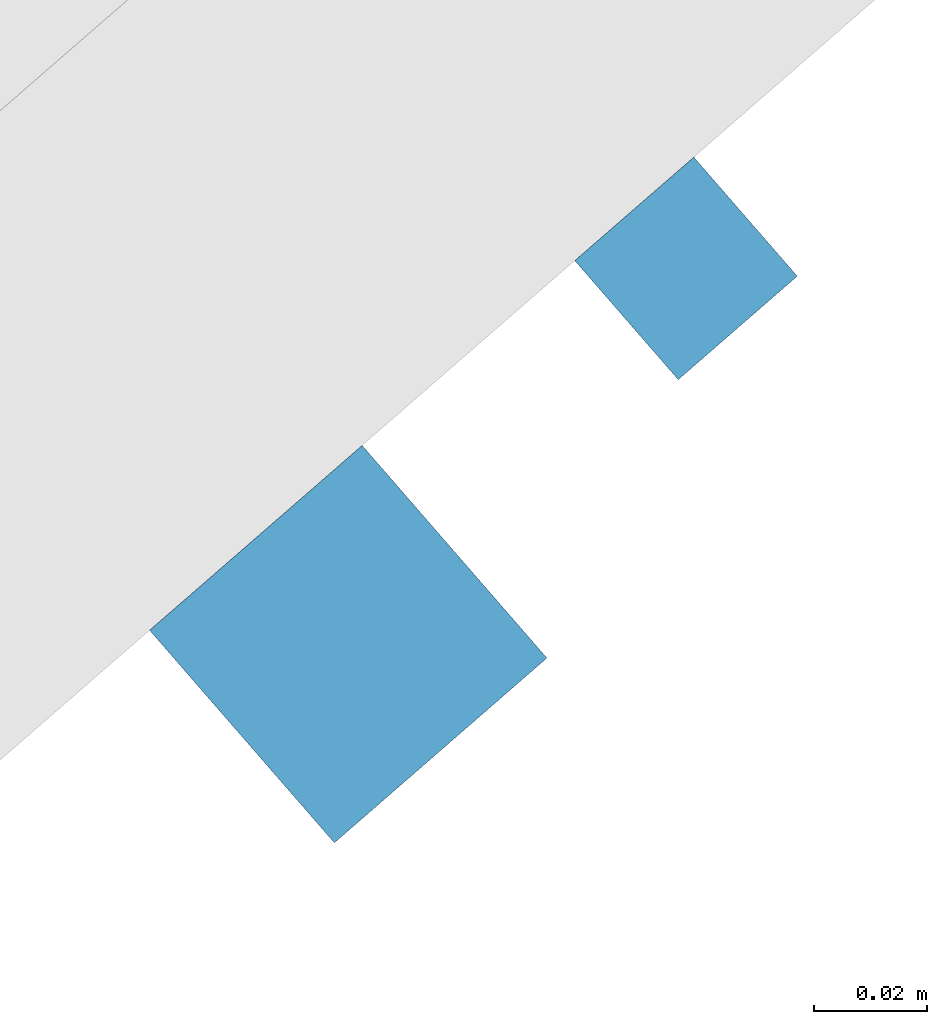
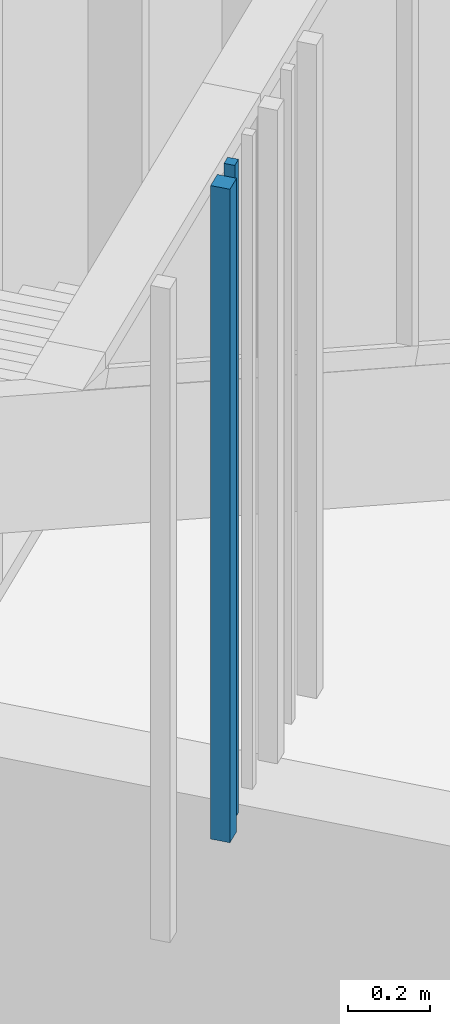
# One storey, part 32 of 124: 2 walls.
"""IFC2X3 building model written with IfcOpenShell, lengths in millimetres."""

from ifc_helpers import new_model, entity, si_unit, converted_unit, derived_unit, money_unit, direction, frame, origin_with_axes, place, context, subcontext, project, spatial, faceted_brep, material, type_object, element, save


model = new_model("IFC2X3")

# Units and contexts
model_context = context("Model", 3, precision=1e-05, world=origin_with_axes(), true_north=direction((0.0, 1.0)))
body_context = subcontext(model_context, "Body", "Model", "MODEL_VIEW")
ifc_project = project(units=[si_unit("LENGTHUNIT", "METRE", prefix="MILLI"), si_unit("AREAUNIT", "SQUARE_METRE"), si_unit("VOLUMEUNIT", "CUBIC_METRE"), converted_unit("PLANEANGLEUNIT", "DEGREE", entity("IfcPlaneAngleMeasure", 0.0174532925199), si_unit("PLANEANGLEUNIT", "RADIAN"), dimensions=[0, 0, 0, 0, 0, 0, 0]), si_unit("SOLIDANGLEUNIT", "STERADIAN"), money_unit("EUR"), converted_unit("TIMEUNIT", "Year", entity("IfcTimeMeasure", 31556926.0), si_unit("TIMEUNIT", "SECOND"), dimensions=[0, 0, 1, 0, 0, 0, 0]), si_unit("MASSUNIT", "GRAM", prefix="KILO"), si_unit("THERMODYNAMICTEMPERATUREUNIT", "DEGREE_CELSIUS"), si_unit("LUMINOUSINTENSITYUNIT", "LUMEN"), si_unit("ENERGYUNIT", "JOULE", prefix="MEGA"), derived_unit("THERMALCONDUCTANCEUNIT", [(si_unit("POWERUNIT", "WATT"), 1), (si_unit("LENGTHUNIT", "METRE"), -1), (si_unit("THERMODYNAMICTEMPERATUREUNIT", "KELVIN"), -1)]), derived_unit("SPECIFICHEATCAPACITYUNIT", [(si_unit("ENERGYUNIT", "JOULE"), 1), (si_unit("MASSUNIT", "GRAM", prefix="KILO"), -1), (si_unit("THERMODYNAMICTEMPERATUREUNIT", "KELVIN"), -1)]), derived_unit("MASSDENSITYUNIT", [(si_unit("MASSUNIT", "GRAM", prefix="KILO"), 1), (si_unit("VOLUMEUNIT", "CUBIC_METRE"), -1)])], contexts=[model_context])

# Site, building, storey
site_placement = place(None, origin_with_axes())
site = spatial("IfcSite", under=ifc_project, at=site_placement, Name="Site", CompositionType="ELEMENT")
building_placement = place(site_placement, origin_with_axes())
building = spatial("IfcBuilding", under=site, at=building_placement, Name="Building", CompositionType="ELEMENT")
storey_placement = place(building_placement, frame((0.0, 0.0, -1615.0), z_axis=(0.0, 0.0, 1.0), x_axis=(1.0, 0.0, 0.0)))
storey = spatial("IfcBuildingStorey", under=building, at=storey_placement, Name="0  korrus", CompositionType="ELEMENT", Elevation=-1615.0)

# Walls
ifc_material = material(Name="Site specified")
wall_type = type_object("IfcWallType", Name="Puitfassaadi ribistik", PredefinedType="NOTDEFINED")
wall_1_placement = place(storey_placement, frame((151297.568429, 76166.1614955, 9530.0), z_axis=(0.0, 0.0, 1.0), x_axis=(-0.754709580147, -0.656059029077, 0.0)))
element("IfcWall", 1, at=wall_1_placement, inside=storey, type_object=wall_type, material=ifc_material, Name="Site specified", context=body_context, shape_type="Brep", body=[
    faceted_brep([(14.0, 14.0, 1950.0), (14.0, 14.0, 0.0), (-14.0, 14.0, 0.0), (-14.0, 14.0, 1950.0), (14.0, -14.0, 1950.0), (14.0, -14.0, 0.0), (-14.0, -14.0, 0.0), (-14.0, -14.0, 1950.0)], [[[0, 1, 2, 3]], [[4, 5, 1, 0]], [[2, 1, 5, 6]], [[3, 2, 6, 7]], [[4, 0, 3, 7]], [[7, 6, 5, 4]]]),
])
wall_2_placement = place(storey_placement, frame((151237.613533, 76099.4683565, 9530.0), z_axis=(0.0, 0.0, 1.0), x_axis=(-0.754709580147, -0.656059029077, 0.0)))
element("IfcWall", 2, at=wall_2_placement, inside=storey, type_object=wall_type, material=ifc_material, Name="Site specified", context=body_context, shape_type="Brep", body=[
    faceted_brep([(25.0, 25.0, 1950.0), (25.0, 25.0, 0.0), (-25.0, 25.0, 0.0), (-25.0, 25.0, 1950.0), (25.0, -25.0, 1950.0), (25.0, -25.0, 0.0), (-25.0, -25.0, 0.0), (-25.0, -25.0, 1950.0)], [[[0, 1, 2, 3]], [[4, 5, 1, 0]], [[2, 1, 5, 6]], [[3, 2, 6, 7]], [[4, 0, 3, 7]], [[7, 6, 5, 4]]]),
])

save(model, "model.ifc")
